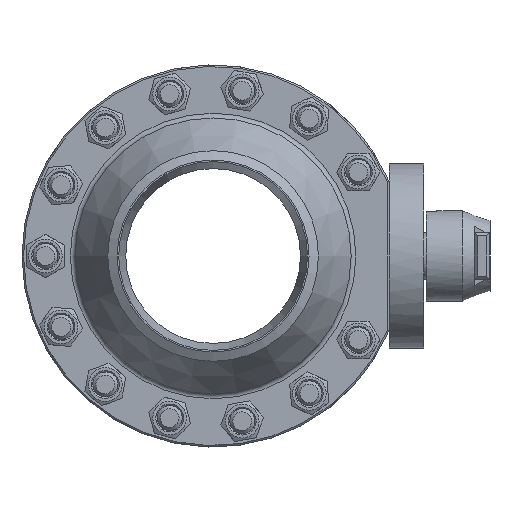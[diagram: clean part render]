
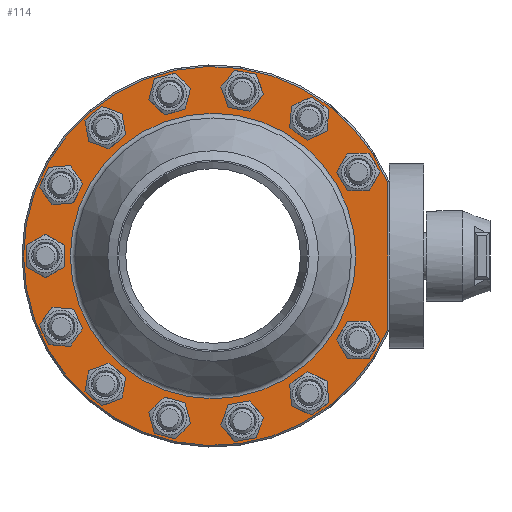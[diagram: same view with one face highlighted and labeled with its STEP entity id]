
A CAD part, left-side view. The second image highlights one B-rep face of the part: STEP entity #114.
In plain terms, the highlighted planar face has unit normal (-1, 0, 0).
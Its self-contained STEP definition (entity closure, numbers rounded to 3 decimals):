
#114=ADVANCED_FACE('',(#2104,#2106,#2108,#2110,#2112,#2114,#2116,#2118,#2120,#2122,
#2124,#2126,#2128,#2130,#2132),#2134,.T.);
#2104=FACE_BOUND('',#2105,.T.);
#2105=EDGE_LOOP('',(#6688));
#2106=FACE_BOUND('',#2107,.T.);
#2107=EDGE_LOOP('',(#6689));
#2108=FACE_BOUND('',#2109,.T.);
#2109=EDGE_LOOP('',(#6690));
#2110=FACE_BOUND('',#2111,.T.);
#2111=EDGE_LOOP('',(#6691));
#2112=FACE_BOUND('',#2113,.T.);
#2113=EDGE_LOOP('',(#6692));
#2114=FACE_BOUND('',#2115,.T.);
#2115=EDGE_LOOP('',(#6693));
#2116=FACE_BOUND('',#2117,.T.);
#2117=EDGE_LOOP('',(#6694));
#2118=FACE_BOUND('',#2119,.T.);
#2119=EDGE_LOOP('',(#6695));
#2120=FACE_BOUND('',#2121,.T.);
#2121=EDGE_LOOP('',(#6696));
#2122=FACE_BOUND('',#2123,.T.);
#2123=EDGE_LOOP('',(#6697));
#2124=FACE_BOUND('',#2125,.T.);
#2125=EDGE_LOOP('',(#6698));
#2126=FACE_BOUND('',#2127,.T.);
#2127=EDGE_LOOP('',(#6699));
#2128=FACE_BOUND('',#2129,.T.);
#2129=EDGE_LOOP('',(#6700));
#2130=FACE_BOUND('',#2131,.T.);
#2131=EDGE_LOOP('',(#6701));
#2132=FACE_OUTER_BOUND('',#2133,.T.);
#2133=EDGE_LOOP('',(#6702,#6703));
#2134=PLANE('',#2135);
#2135=AXIS2_PLACEMENT_3D('',#2136,#2137,#2138);
#2136=CARTESIAN_POINT('',(-75.,0.,0.));
#2137=DIRECTION('',(-1.,0.,-0.));
#2138=DIRECTION('',(0.,-1.,0.));
#6688=ORIENTED_EDGE('',*,*,#10216,.F.);
#6689=ORIENTED_EDGE('',*,*,#10217,.F.);
#6690=ORIENTED_EDGE('',*,*,#10218,.F.);
#6691=ORIENTED_EDGE('',*,*,#10219,.F.);
#6692=ORIENTED_EDGE('',*,*,#10220,.F.);
#6693=ORIENTED_EDGE('',*,*,#10221,.F.);
#6694=ORIENTED_EDGE('',*,*,#10222,.T.);
#6695=ORIENTED_EDGE('',*,*,#10223,.F.);
#6696=ORIENTED_EDGE('',*,*,#10224,.F.);
#6697=ORIENTED_EDGE('',*,*,#10225,.F.);
#6698=ORIENTED_EDGE('',*,*,#10226,.F.);
#6699=ORIENTED_EDGE('',*,*,#10227,.F.);
#6700=ORIENTED_EDGE('',*,*,#10228,.F.);
#6701=ORIENTED_EDGE('',*,*,#10229,.F.);
#6702=ORIENTED_EDGE('',*,*,#10230,.T.);
#6703=ORIENTED_EDGE('',*,*,#10231,.F.);
#10216=EDGE_CURVE('',#11577,#11577,#11578,.F.);
#10217=EDGE_CURVE('',#11579,#11579,#11580,.F.);
#10218=EDGE_CURVE('',#11581,#11581,#11582,.F.);
#10219=EDGE_CURVE('',#11583,#11583,#11584,.F.);
#10220=EDGE_CURVE('',#11585,#11585,#11586,.F.);
#10221=EDGE_CURVE('',#11587,#11587,#11588,.F.);
#10222=EDGE_CURVE('',#11589,#11589,#11590,.T.);
#10223=EDGE_CURVE('',#11591,#11591,#11592,.F.);
#10224=EDGE_CURVE('',#11593,#11593,#11594,.F.);
#10225=EDGE_CURVE('',#11595,#11595,#11596,.F.);
#10226=EDGE_CURVE('',#11597,#11597,#11598,.F.);
#10227=EDGE_CURVE('',#11599,#11599,#11600,.F.);
#10228=EDGE_CURVE('',#11601,#11601,#11602,.F.);
#10229=EDGE_CURVE('',#11603,#11603,#11604,.F.);
#10230=EDGE_CURVE('',#11605,#11606,#11607,.T.);
#10231=EDGE_CURVE('',#11605,#11606,#11608,.T.);
#11577=VERTEX_POINT('',#13790);
#11578=CIRCLE('',#13791,10.8);
#11579=VERTEX_POINT('',#13795);
#11580=CIRCLE('',#13796,10.8);
#11581=VERTEX_POINT('',#13800);
#11582=CIRCLE('',#13801,10.8);
#11583=VERTEX_POINT('',#13805);
#11584=CIRCLE('',#13806,10.8);
#11585=VERTEX_POINT('',#13810);
#11586=CIRCLE('',#13811,10.8);
#11587=VERTEX_POINT('',#13815);
#11588=CIRCLE('',#13816,10.8);
#11589=VERTEX_POINT('',#13820);
#11590=CIRCLE('',#13821,91.5);
#11591=VERTEX_POINT('',#13825);
#11592=CIRCLE('',#13826,10.8);
#11593=VERTEX_POINT('',#13830);
#11594=CIRCLE('',#13831,10.8);
#11595=VERTEX_POINT('',#13835);
#11596=CIRCLE('',#13836,10.8);
#11597=VERTEX_POINT('',#13840);
#11598=CIRCLE('',#13841,10.8);
#11599=VERTEX_POINT('',#13845);
#11600=CIRCLE('',#13846,10.8);
#11601=VERTEX_POINT('',#13850);
#11602=CIRCLE('',#13851,10.8);
#11603=VERTEX_POINT('',#13855);
#11604=CIRCLE('',#13856,10.8);
#11605=VERTEX_POINT('',#13860);
#11606=VERTEX_POINT('',#13861);
#11607=LINE('',#13862,#13863);
#11608=CIRCLE('',#13865,121.5);
#13790=CARTESIAN_POINT('',(-75.,-60.718,-77.3));
#13791=AXIS2_PLACEMENT_3D('',#13792,#13793,#13794);
#13792=CARTESIAN_POINT('',(-75.,-61.659,-88.059));
#13793=DIRECTION('',(1.,-0.,0.));
#13794=DIRECTION('',(0.,0.087,0.996));
#13795=CARTESIAN_POINT('',(-75.,20.186,-96.2));
#13796=AXIS2_PLACEMENT_3D('',#13797,#13798,#13799);
#13797=CARTESIAN_POINT('',(-75.,27.823,-103.837));
#13798=DIRECTION('',(1.,-0.,0.));
#13799=DIRECTION('',(0.,-0.707,0.707));
#13800=CARTESIAN_POINT('',(-75.,86.669,-46.373));
#13801=AXIS2_PLACEMENT_3D('',#13802,#13803,#13804);
#13802=CARTESIAN_POINT('',(-75.,97.428,-45.431));
#13803=DIRECTION('',(1.,-0.,0.));
#13804=DIRECTION('',(0.,-0.996,-0.087));
#13805=CARTESIAN_POINT('',(-75.,91.233,36.585));
#13806=AXIS2_PLACEMENT_3D('',#13807,#13808,#13809);
#13807=CARTESIAN_POINT('',(-75.,97.428,45.431));
#13808=DIRECTION('',(1.,-0.,0.));
#13809=DIRECTION('',(0.,-0.574,-0.819));
#13810=CARTESIAN_POINT('',(-75.,30.618,93.405));
#13811=AXIS2_PLACEMENT_3D('',#13812,#13813,#13814);
#13812=CARTESIAN_POINT('',(-75.,27.823,103.837));
#13813=DIRECTION('',(1.,-0.,0.));
#13814=DIRECTION('',(-0.,0.259,-0.966));
#13815=CARTESIAN_POINT('',(-75.,-51.871,83.495));
#13816=AXIS2_PLACEMENT_3D('',#13817,#13818,#13819);
#13817=CARTESIAN_POINT('',(-75.,-61.659,88.059));
#13818=DIRECTION('',(1.,-0.,0.));
#13819=DIRECTION('',(-0.,0.906,-0.423));
#13820=CARTESIAN_POINT('',(-75.,-91.5,0.));
#13821=AXIS2_PLACEMENT_3D('',#13822,#13823,#13824);
#13822=CARTESIAN_POINT('',(-75.,0.,0.));
#13823=DIRECTION('',(1.,-0.,0.));
#13824=DIRECTION('',(0.,-1.,0.));
#13825=CARTESIAN_POINT('',(-75.,-82.298,53.75));
#13826=AXIS2_PLACEMENT_3D('',#13827,#13828,#13829);
#13827=CARTESIAN_POINT('',(-75.,-93.098,53.75));
#13828=DIRECTION('',(1.,-0.,0.));
#13829=DIRECTION('',(0.,1.,0.));
#13830=CARTESIAN_POINT('',(-75.,-11.725,97.594));
#13831=AXIS2_PLACEMENT_3D('',#13832,#13833,#13834);
#13832=CARTESIAN_POINT('',(-75.,-18.667,105.867));
#13833=DIRECTION('',(1.,-0.,0.));
#13834=DIRECTION('',(-0.,0.643,-0.766));
#13835=CARTESIAN_POINT('',(-75.,67.224,71.714));
#13836=AXIS2_PLACEMENT_3D('',#13837,#13838,#13839);
#13837=CARTESIAN_POINT('',(-75.,69.1,82.35));
#13838=DIRECTION('',(1.,-0.,0.));
#13839=DIRECTION('',(0.,-0.174,-0.985));
#13840=CARTESIAN_POINT('',(-75.,98.147,-5.4));
#13841=AXIS2_PLACEMENT_3D('',#13842,#13843,#13844);
#13842=CARTESIAN_POINT('',(-75.,107.5,0.));
#13843=DIRECTION('',(1.,-0.,0.));
#13844=DIRECTION('',(0.,-0.866,-0.5));
#13845=CARTESIAN_POINT('',(-75.,58.951,-78.656));
#13846=AXIS2_PLACEMENT_3D('',#13847,#13848,#13849);
#13847=CARTESIAN_POINT('',(-75.,69.1,-82.35));
#13848=DIRECTION('',(1.,-0.,0.));
#13849=DIRECTION('',(0.,-0.94,0.342));
#13850=CARTESIAN_POINT('',(-75.,-22.361,-95.718));
#13851=AXIS2_PLACEMENT_3D('',#13852,#13853,#13854);
#13852=CARTESIAN_POINT('',(-75.,-18.667,-105.867));
#13853=DIRECTION('',(1.,-0.,0.));
#13854=DIRECTION('',(0.,-0.342,0.94));
#13855=CARTESIAN_POINT('',(-75.,-87.698,-44.397));
#13856=AXIS2_PLACEMENT_3D('',#13857,#13858,#13859);
#13857=CARTESIAN_POINT('',(-75.,-93.098,-53.75));
#13858=DIRECTION('',(1.,-0.,0.));
#13859=DIRECTION('',(0.,0.5,0.866));
#13860=CARTESIAN_POINT('',(-75.,-112.,-47.098));
#13861=CARTESIAN_POINT('',(-75.,-112.,47.098));
#13862=CARTESIAN_POINT('',(-75.,-112.,-47.098));
#13863=VECTOR('',#13864,1.);
#13864=DIRECTION('',(0.,0.,1.));
#13865=AXIS2_PLACEMENT_3D('',#13866,#13867,#13868);
#13866=CARTESIAN_POINT('',(-75.,0.,0.));
#13867=DIRECTION('',(1.,0.,0.));
#13868=DIRECTION('',(0.,-0.922,-0.388));
